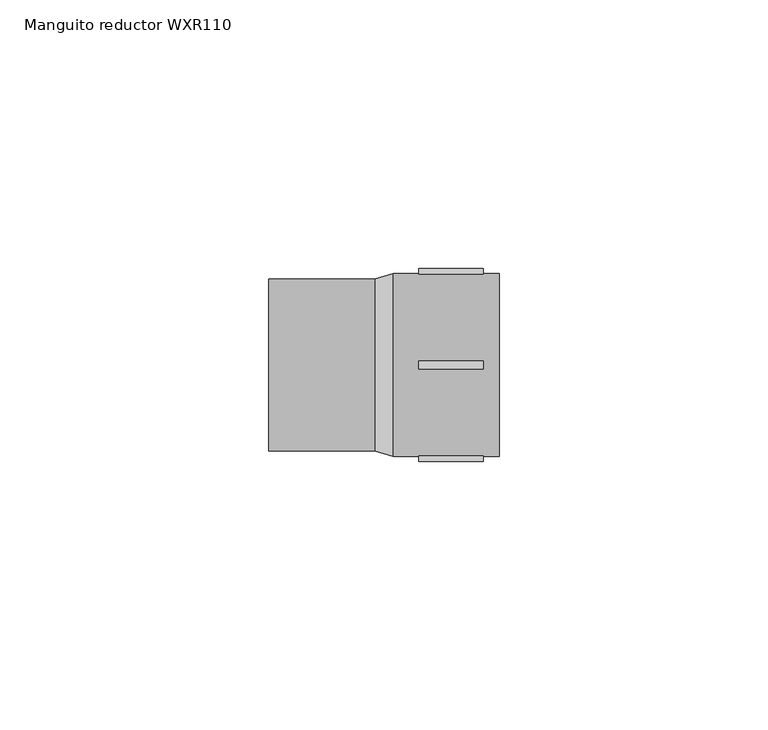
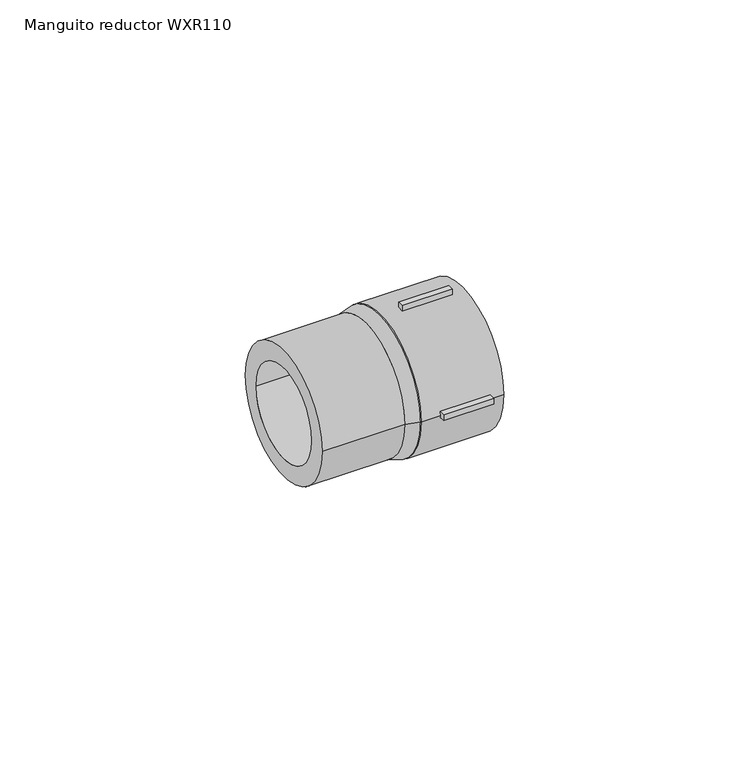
"""IFC4 building model written with IfcOpenShell, lengths in millimetres: pipe fitting geometry, EGB_VASEN_ PPR_Manguito reductor WXR110 : Manguito reductor WXR110."""

from ifc_helpers import new_model, si_unit, point, frame, origin, origin_2d, place, context, project, spatial, polyline, circle_curve, trimmed, segment, composite_curve, outline, extrude, source, transform, mapped, element, save
from ifc_brep_helpers import plane_surface, revolved_surface, advanced_brep


def manguito_reductor_wxr110_82cfb1d9(model_context):
    return source(origin(), model_context, "Body", "SolidModel", [
        extrude(outline(polyline([(6.5, -0.75), (6.5, 0.75), (18.5, 0.75), (18.5, -0.75), (6.5, -0.75)])), frame((0.0, 0.0, 16.0), z_axis=(0.0, 0.0, 1.0), x_axis=(1.0, 0.0, 0.0)), (0.0, 0.0, 1.0), 2.0),
        extrude(outline(polyline([(6.5, -0.75), (6.5, 0.75), (18.5, 0.75), (18.5, -0.75), (6.5, -0.75)])), frame((0.0, 0.0, -18.0), z_axis=(0.0, 0.0, 1.0), x_axis=(1.0, 0.0, 0.0)), (0.0, 0.0, 1.0), 2.0),
        extrude(outline(polyline([(6.5, 16.0), (6.5, 18.0), (18.5, 18.0), (18.5, 16.0), (6.5, 16.0)])), frame((0.0, 0.0, -0.75), z_axis=(0.0, 0.0, 1.0), x_axis=(1.0, 0.0, 0.0)), (0.0, 0.0, 1.0), 1.5),
        extrude(outline(polyline([(6.5, -18.0), (6.5, -16.0), (18.5, -16.0), (18.5, -18.0), (6.5, -18.0)])), frame((0.0, 0.0, -0.75), z_axis=(0.0, 0.0, 1.0), x_axis=(1.0, 0.0, 0.0)), (0.0, 0.0, 1.0), 1.5),
        extrude(outline(composite_curve([segment(trimmed(circle_curve(origin_2d(), 17.0), [point((-17.0, 0.0))], [point((17.0, 0.0))], False, "CARTESIAN"), True, "CONTINUOUS"), segment(trimmed(circle_curve(origin_2d(), 17.0), [point((17.0, 0.0))], [point((-17.0, 0.0))], False, "CARTESIAN"), True, "CONTINUOUS")], self_intersect=False), holes=[composite_curve([segment(trimmed(circle_curve(origin_2d(), 12.5), [point((-12.5, 0.0))], [point((12.5, 0.0))], True, "CARTESIAN"), True, "CONTINUOUS"), segment(trimmed(circle_curve(origin_2d(), 12.5), [point((12.5, 0.0))], [point((-12.5, 0.0))], True, "CARTESIAN"), True, "CONTINUOUS")], self_intersect=False)]), frame((1.72, 0.0, 0.0), z_axis=(1.0, 0.0, 0.0), x_axis=(0.0, 1.0, 0.0)), (0.0, 0.0, 1.0), 19.78),
        extrude(outline(composite_curve([segment(trimmed(circle_curve(origin_2d(), 16.0), [point((-16.0, 0.0))], [point((16.0, 0.0))], False, "CARTESIAN"), True, "CONTINUOUS"), segment(trimmed(circle_curve(origin_2d(), 16.0), [point((16.0, 0.0))], [point((-16.0, 0.0))], False, "CARTESIAN"), True, "CONTINUOUS")], self_intersect=False), holes=[composite_curve([segment(trimmed(circle_curve(origin_2d(), 11.5), [point((-11.5, 0.0))], [point((11.5, 0.0))], True, "CARTESIAN"), True, "CONTINUOUS"), segment(trimmed(circle_curve(origin_2d(), 11.5), [point((11.5, 0.0))], [point((-11.5, 0.0))], True, "CARTESIAN"), True, "CONTINUOUS")], self_intersect=False)]), frame((-21.5, 0.0, 0.0), z_axis=(1.0, 0.0, 0.0), x_axis=(0.0, 1.0, 0.0)), (0.0, 0.0, 1.0), 19.78),
        advanced_brep(
        [(1.72, -17.0, 0.0), (1.72, 17.0, 0.0), (-1.72, -16.0, 0.0), (-1.72, 16.0, 0.0)],
        [
            (0, 1, circle_curve(frame((1.72, 0.0, 0.0), z_axis=(1.0, 0.0, 0.0), x_axis=(0.0, -1.0, 0.0)), 17.0)),
            (1, 0, circle_curve(frame((1.72, 0.0, 0.0), z_axis=(1.0, 0.0, 0.0), x_axis=(0.0, 1.0, 0.0)), 17.0)),
            (2, 3, circle_curve(frame((-1.72, 0.0, 0.0), z_axis=(-1.0, 0.0, 0.0), x_axis=(0.0, 1.0, 0.0)), 16.0)),
            (3, 2, circle_curve(frame((-1.72, 0.0, 0.0), z_axis=(-1.0, 0.0, 0.0), x_axis=(0.0, -1.0, 0.0)), 16.0)),
            (3, 1),
            (0, 2),
        ],
        [
            plane_surface(frame((1.72, 0.0, 0.0), z_axis=(1.0, 0.0, 0.0), x_axis=(0.0, 0.0, -1.0))),
            plane_surface(frame((-1.72, 0.0, 0.0), z_axis=(-1.0, 0.0, 0.0), x_axis=(0.0, 0.0, -1.0))),
            revolved_surface(polyline([(-1.7199999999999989, 16.0, 0.0), (1.7199999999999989, 17.0, 0.0)]), (-56.76, 0.0, 0.0), (1.0, 0.0, 0.0)),
            revolved_surface(polyline([(-1.7199999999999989, -16.0, 0.0), (1.7199999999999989, -17.0, 0.0)]), (-56.76, 0.0, 0.0), (1.0, 0.0, 0.0)),
        ],
        [
            (0, [[1, 2]]),
            (1, [[3, 4]]),
            (2, [[-4, 5, -1, 6]]),
            (3, [[-3, -6, -2, -5]]),
        ],
    ),
    ])


if __name__ == "__main__":
    model = new_model("IFC4")
    model_context = context("Model", 3, world=origin())
    ifc_project = project(units=[si_unit("LENGTHUNIT", "METRE", prefix="MILLI")], contexts=[model_context])
    site = spatial("IfcSite", under=ifc_project)
    building = spatial("IfcBuilding", under=site)
    placement = place(None, origin())
    manguito_reductor_wxr110_shape = manguito_reductor_wxr110_82cfb1d9(model_context)
    element("IfcPipeFitting", 1, ObjectType="EGB_VASEN_ PPR_Manguito reductor WXR110 : Manguito reductor WXR110", at=placement, inside=building, context=model_context, shape_type="MappedRepresentation", body=[
        mapped(manguito_reductor_wxr110_shape, transform((0.0, 0.0, 0.0), x_axis=(1.0, 0.0, 0.0), y_axis=(0.0, 1.0, 0.0), z_axis=(0.0, 0.0, 1.0))),
    ])
    save(model, "model.ifc")
